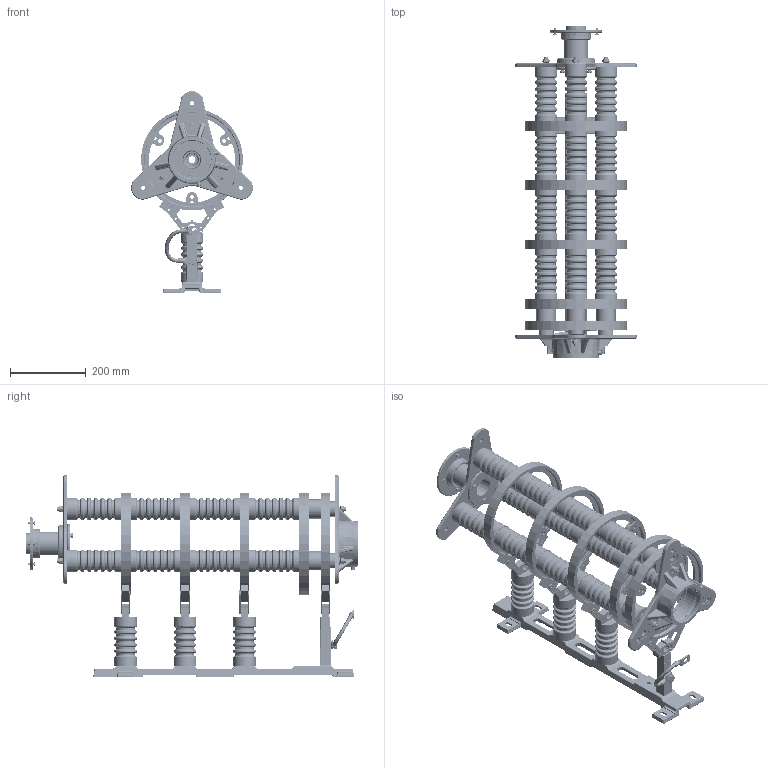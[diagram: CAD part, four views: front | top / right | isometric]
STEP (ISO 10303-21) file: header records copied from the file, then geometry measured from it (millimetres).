
FILE_DESCRIPTION(/* description */ (''),/* implementation_level */ '2;1');
FILE_NAME(/* name */ 'K:\MANDARIC\77320 SINGLE.stp',/* time_stamp */ '2017-12-01T09:54:53+01:00',/* author */ ('milman01'),/* organization */ ('Hillmar Industries Ltd.'),/* preprocessor_version */ 'ST-DEVELOPER v16.1',/* originating_system */ 'Autodesk Inventor 2016',/* authorisation */ '');
FILE_SCHEMA (('AUTOMOTIVE_DESIGN { 1 0 10303 214 3 1 1 }'));
Products named in the file (1): 77320 PSR-06-10KV-4B-400A SLIPRING ASSEMBLY_Shrinkwrap_1
Bounding box: 322.51 x 879.3 x 534.32 mm (x, y, z)
Volume: 9574068.2 mm3; surface area: 1545892.2 mm2
Topology: 8 solids, 28 shells, 2951 faces, 6815 edges, 4034 vertices
Faces by surface type: cylinder 1030, plane 823, torus 434, cone 387, bspline 173, sphere 104
Full cylindrical faces by diameter (mm): 4.917 x4, 5 x32, 5.459 x4, 6 x4, 6.647 x11, 7 x4, 7.323 x3, 8 x3, 8.376 x38, 8.7 x4, 9 x5, 9.188 x3, 10 x17, 10.106 x10, 10.5 x8, 11 x13, 11.053 x1, 11.4 x3, 12 x1, 13 x3, 13.5 x2, 15.4 x3, 15.6 x6, 16.5 x3, 17.2 x1, 17.5 x3, 18 x1, 20 x5, 23 x13, 24 x5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
Entity records: 83961 total; most frequent: CARTESIAN_POINT 19162, DIRECTION 13605, ORIENTED_EDGE 10988, AXIS2_PLACEMENT_3D 5784, EDGE_CURVE 5495, EDGE_LOOP 4378, VERTEX_POINT 3841, STYLED_ITEM 2959
